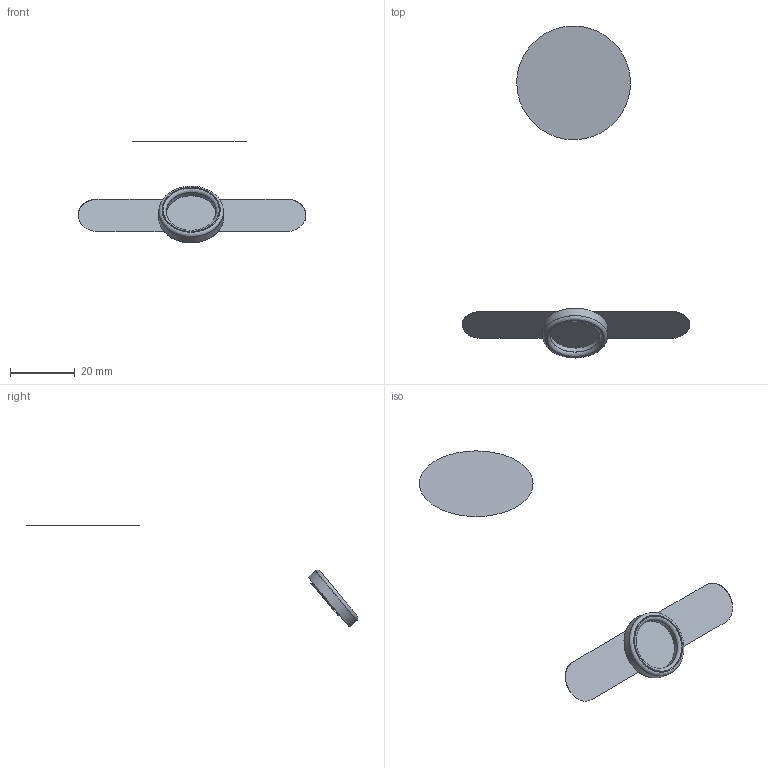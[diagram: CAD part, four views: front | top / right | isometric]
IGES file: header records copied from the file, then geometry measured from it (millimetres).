
Global section: file name: C:\Users\Massimiliano\Desktop\MOON completa\MOON R H15 70R art.5508\MOON R H15 70R art.5508.igs; native system: Rhinoceros ( Mar 28 2013 ); preprocessor: Trout Lake IGES 012 Mar 28 2013; date: 171222.080948; units: millimetre
Bounding box: 70.15 x 102.12 x 31.37 mm (x, y, z)
Surface area: 2673.3 mm2 (no closed solid volume)
Topology: 0 solids, 0 shells, 9 faces, 244 edges, 238 vertices
Faces by surface type: bspline 9
